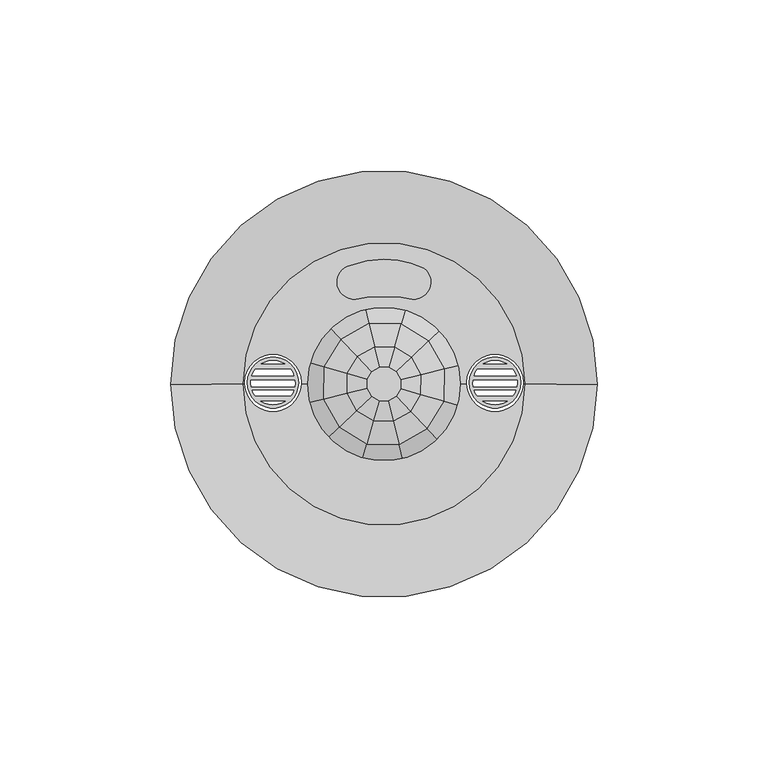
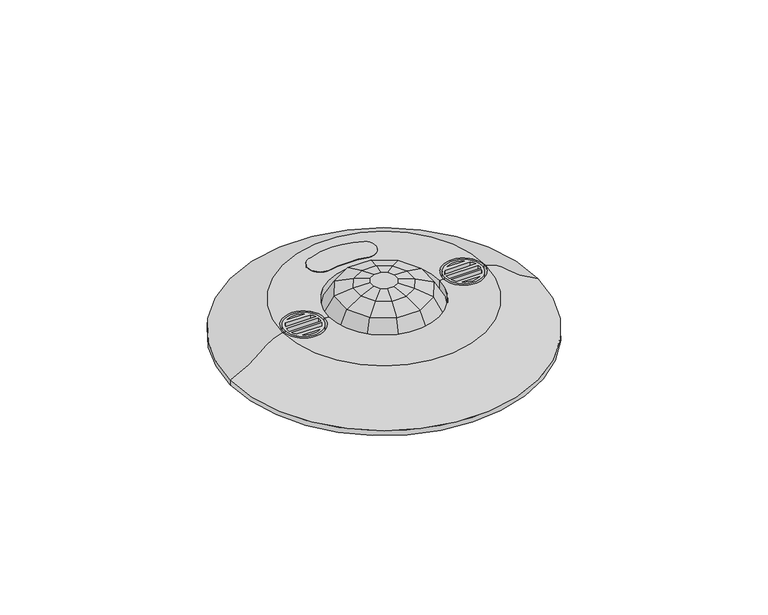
"""IFC4 building model written with IfcOpenShell, lengths in millimetres: switching device geometry, BT_LN_MHU-SensoriAdInfrarossi_PIR_BMSE3003 : BT_LN_MHU-SensoriAdInfrarossi_PIR_BMSE3003."""

from ifc_helpers import new_model, si_unit, point, frame, frame_2d, origin, origin_with_axes, place, context, project, spatial, polyline, circle_curve, trimmed, segment, composite_curve, outline, extrude, faceted_brep, source, transform, mapped, element, save
from ifc_brep_helpers import plane_surface, cylinder_surface, revolved_surface, spline_curve, advanced_brep


def switching_device_5ea9bc78(model_context):
    return source(origin(), model_context, "Body", "SolidModel", [
        extrude(outline(composite_curve([segment(trimmed(circle_curve(frame_2d((32.5289146, 0.3980965)), 7.4969993), [point((40.0259139, 0.3980965))], [point((25.0319153, 0.3980965))], False, "CARTESIAN"), True, "CONTINUOUS"), segment(trimmed(circle_curve(frame_2d((32.5289146, 0.3980965)), 7.4969993), [point((25.0319153, 0.3980965))], [point((40.0259139, 0.3980965))], False, "CARTESIAN"), True, "CONTINUOUS")], self_intersect=False), holes=[composite_curve([segment(trimmed(circle_curve(frame_2d((32.5337998, 0.3660322)), 6.4921141), [point((38.9237363, -0.78125))], [point((38.9812442, 1.1262992))], True, "CARTESIAN"), True, "CONTINUOUS"), segment(polyline([(38.9812442, 1.1262992), (26.0863554, 1.1262992)]), True, "CONTINUOUS"), segment(trimmed(circle_curve(frame_2d((32.5337998, 0.3660322)), 6.4921141), [point((26.0863554, 1.1262992))], [point((26.1438633, -0.78125))], True, "CARTESIAN"), True, "CONTINUOUS"), segment(polyline([(26.1438633, -0.78125), (38.9237363, -0.78125)]), True, "CONTINUOUS")], self_intersect=False), composite_curve([segment(trimmed(circle_curve(frame_2d((32.5337998, 0.3660322)), 6.4921141), [point((35.9748756, 5.8711699))], [point((29.092724, 5.8711699))], True, "CARTESIAN"), True, "CONTINUOUS"), segment(polyline([(29.092724, 5.8711699), (35.9748756, 5.8711699)]), True, "CONTINUOUS")], self_intersect=False), composite_curve([segment(trimmed(circle_curve(frame_2d((32.5337998, 0.3660322)), 6.4921141), [point((27.3721411, 4.3036487))], [point((26.3705368, 2.406065))], True, "CARTESIAN"), True, "CONTINUOUS"), segment(polyline([(26.3705368, 2.406065), (38.6970628, 2.406065)]), True, "CONTINUOUS"), segment(trimmed(circle_curve(frame_2d((32.5337998, 0.3660322)), 6.4921141), [point((38.6970628, 2.406065))], [point((37.6954585, 4.3036487))], True, "CARTESIAN"), True, "CONTINUOUS"), segment(polyline([(37.6954585, 4.3036487), (27.3721411, 4.3036487)]), True, "CONTINUOUS")], self_intersect=False), composite_curve([segment(polyline([(36.0754046, -5.074977), (28.992195, -5.074977)]), True, "CONTINUOUS"), segment(trimmed(circle_curve(frame_2d((32.5337998, 0.3660322)), 6.4921141), [point((28.992195, -5.074977))], [point((36.0754046, -5.074977))], True, "CARTESIAN"), True, "CONTINUOUS")], self_intersect=False), composite_curve([segment(polyline([(27.3238443, -3.5074557), (37.7437553, -3.5074557)]), True, "CONTINUOUS"), segment(trimmed(circle_curve(frame_2d((32.5337998, 0.3660322)), 6.4921141), [point((37.7437553, -3.5074557))], [point((38.665803, -1.766122))], True, "CARTESIAN"), True, "CONTINUOUS"), segment(polyline([(38.665803, -1.766122), (26.4017966, -1.766122)]), True, "CONTINUOUS"), segment(trimmed(circle_curve(frame_2d((32.5337998, 0.3660322)), 6.4921141), [point((26.4017966, -1.766122))], [point((27.3238443, -3.5074557))], True, "CARTESIAN"), True, "CONTINUOUS")], self_intersect=False)]), origin_with_axes(), (0.0, 0.0, 1.0), 15.2618347),
        extrude(outline(composite_curve([segment(trimmed(circle_curve(frame_2d((-32.5289146, 0.3980965)), 7.4969993), [point((-40.0259139, 0.3980965))], [point((-25.0319153, 0.3980965))], False, "CARTESIAN"), True, "CONTINUOUS"), segment(trimmed(circle_curve(frame_2d((-32.5289146, 0.3980965)), 7.4969993), [point((-25.0319153, 0.3980965))], [point((-40.0259139, 0.3980965))], False, "CARTESIAN"), True, "CONTINUOUS")], self_intersect=False), holes=[composite_curve([segment(polyline([(-38.9237363, -0.78125), (-26.1438633, -0.78125)]), True, "CONTINUOUS"), segment(trimmed(circle_curve(frame_2d((-32.5337998, 0.3660322)), 6.4921141), [point((-26.1438633, -0.78125))], [point((-26.0863554, 1.1262992))], True, "CARTESIAN"), True, "CONTINUOUS"), segment(polyline([(-26.0863554, 1.1262992), (-38.9812442, 1.1262992)]), True, "CONTINUOUS"), segment(trimmed(circle_curve(frame_2d((-32.5337998, 0.3660322)), 6.4921141), [point((-38.9812442, 1.1262992))], [point((-38.9237363, -0.78125))], True, "CARTESIAN"), True, "CONTINUOUS")], self_intersect=False), composite_curve([segment(polyline([(-35.9748756, 5.8711699), (-29.092724, 5.8711699)]), True, "CONTINUOUS"), segment(trimmed(circle_curve(frame_2d((-32.5337998, 0.3660322)), 6.4921141), [point((-29.092724, 5.8711699))], [point((-35.9748756, 5.8711699))], True, "CARTESIAN"), True, "CONTINUOUS")], self_intersect=False), composite_curve([segment(polyline([(-27.3721411, 4.3036487), (-37.6954585, 4.3036487)]), True, "CONTINUOUS"), segment(trimmed(circle_curve(frame_2d((-32.5337998, 0.3660322)), 6.4921141), [point((-37.6954585, 4.3036487))], [point((-38.6970628, 2.406065))], True, "CARTESIAN"), True, "CONTINUOUS"), segment(polyline([(-38.6970628, 2.406065), (-26.3705368, 2.406065)]), True, "CONTINUOUS"), segment(trimmed(circle_curve(frame_2d((-32.5337998, 0.3660322)), 6.4921141), [point((-26.3705368, 2.406065))], [point((-27.3721411, 4.3036487))], True, "CARTESIAN"), True, "CONTINUOUS")], self_intersect=False), composite_curve([segment(trimmed(circle_curve(frame_2d((-32.5337998, 0.3660322)), 6.4921141), [point((-36.0754046, -5.074977))], [point((-28.992195, -5.074977))], True, "CARTESIAN"), True, "CONTINUOUS"), segment(polyline([(-28.992195, -5.074977), (-36.0754046, -5.074977)]), True, "CONTINUOUS")], self_intersect=False), composite_curve([segment(trimmed(circle_curve(frame_2d((-32.5337998, 0.3660322)), 6.4921141), [point((-27.3238443, -3.5074557))], [point((-26.4017966, -1.766122))], True, "CARTESIAN"), True, "CONTINUOUS"), segment(polyline([(-26.4017966, -1.766122), (-38.665803, -1.766122)]), True, "CONTINUOUS"), segment(trimmed(circle_curve(frame_2d((-32.5337998, 0.3660322)), 6.4921141), [point((-38.665803, -1.766122))], [point((-37.7437553, -3.5074557))], True, "CARTESIAN"), True, "CONTINUOUS"), segment(polyline([(-37.7437553, -3.5074557), (-27.3238443, -3.5074557)]), True, "CONTINUOUS")], self_intersect=False)]), origin_with_axes(), (0.0, 0.0, 1.0), 15.2618347),
        extrude(outline(composite_curve([segment(trimmed(circle_curve(frame_2d((0.1207655, 9.0083661)), 27.4812206), [point((0.0, 36.4893213))], [point((11.6293885, 33.9637079))], False, "CARTESIAN"), True, "CONTINUOUS"), segment(trimmed(circle_curve(frame_2d((8.7611706, 29.8681828)), 5.0), [point((11.6293885, 33.9637079))], [point((8.3144319, 24.8881803))], False, "CARTESIAN"), True, "CONTINUOUS"), segment(trimmed(circle_curve(frame_2d((2.0898873, 2.2156424)), 23.5114638), [point((8.3144319, 24.8881803))], [point((0.0, 25.634039))], True, "CARTESIAN"), True, "CONTINUOUS"), segment(trimmed(circle_curve(frame_2d((-2.0898873, 2.2156424)), 23.5114638), [point((0.0, 25.634039))], [point((-8.3144319, 24.8881803))], True, "CARTESIAN"), True, "CONTINUOUS"), segment(trimmed(circle_curve(frame_2d((-8.7611706, 29.8681828)), 5.0), [point((-8.3144319, 24.8881803))], [point((-9.6290022, 34.7922937))], False, "CARTESIAN"), True, "CONTINUOUS"), segment(trimmed(circle_curve(frame_2d((-0.1207655, 9.0083661)), 27.4812206), [point((-9.6290022, 34.7922937))], [point((0.0, 36.4893213))], False, "CARTESIAN"), True, "CONTINUOUS")], self_intersect=False)), origin_with_axes(), (0.0, 0.0, 1.0), 15.2618347),
        advanced_brep(
        [(22.5, 0.0, 15.2618347), (-22.5, 0.0, 15.2618347), (-22.5, 0.0, 0.0), (22.5, 0.0, 0.0), (62.5, 0.0, 2.0722277), (-62.5, 0.0, 2.0722277), (-41.3922164, 0.0, 15.2618347), (41.3922164, 0.0, 15.2618347), (62.5, 0.0, 0.0), (-62.5, 0.0, 0.0), (-24.0977716, 0.0, 0.0), (-24.0919696, 0.3125, 0.0), (-40.9290289, 0.3125, 0.0), (-40.9232269, 0.0, 0.0), (40.9232269, 0.0, 0.0), (40.9290289, 0.3125, 0.0), (24.0919696, 0.3125, 0.0), (24.0977716, 0.0, 0.0), (-8.3144319, 24.8881803, 0.0), (0.0, 25.634039, 0.0), (8.3144319, 24.8881803, 0.0), (11.6293885, 33.9637079, 0.0), (0.0, 36.4893213, 0.0), (-9.6290022, 34.7922937, 0.0), (-40.9290289, 0.3125, 15.2618347), (-40.9232269, 0.0, 15.2618347), (-24.0977716, 0.0, 15.2618347), (-24.0919696, 0.3125, 15.2618347), (24.0919696, 0.3125, 15.2618347), (24.0977716, 0.0, 15.2618347), (40.9232269, 0.0, 15.2618347), (40.9290289, 0.3125, 15.2618347), (0.0, 25.634039, 15.2618347), (-8.3144319, 24.8881803, 15.2618347), (-9.6290022, 34.7922937, 15.2618347), (0.0, 36.4893213, 15.2618347), (11.6293885, 33.9637079, 15.2618347), (8.3144319, 24.8881803, 15.2618347)],
        [
            (0, 1, circle_curve(frame((0.0, 0.0, 15.2618347), z_axis=(0.0, 0.0, 1.0), x_axis=(-1.0, 0.0, 0.0)), 22.5)),
            (1, 2),
            (2, 3, circle_curve(frame((0.0, 0.0, 0.0), z_axis=(0.0, 0.0, -1.0), x_axis=(-1.0, 0.0, 0.0)), 22.5)),
            (3, 0),
            (1, 0, circle_curve(frame((0.0, 0.0, 15.2618347), z_axis=(0.0, 0.0, 1.0), x_axis=(-1.0, 0.0, 0.0)), 22.5)),
            (3, 2, circle_curve(frame((0.0, 0.0, 0.0), z_axis=(0.0, 0.0, -1.0), x_axis=(-1.0, 0.0, 0.0)), 22.5)),
            (4, 5, circle_curve(frame((0.0, 0.0, 2.0722277), z_axis=(0.0, 0.0, 1.0), x_axis=(-1.0, 0.0, 0.0)), 62.5)),
            (5, 6, spline_curve(3, [(-62.5, 0.0, 2.0722277), (-56.363581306, 0.0, 4.765481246), (-53.304367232, 0.0, 7.396496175), (-48.184112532, 0.0, 12.057382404), (-46.057106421, 0.0, 14.120297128), (-41.3922164, 0.0, 15.2618347)], [4, 2, 4], [0.0, 0.03817155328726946, 0.07282897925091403])),
            (6, 7, circle_curve(frame((0.0, 0.0, 15.2618347), z_axis=(0.0, 0.0, -1.0), x_axis=(-1.0, 0.0, 0.0)), 41.3922164)),
            (7, 4, spline_curve(3, [(41.3922164, 0.0, 15.2618347), (46.057106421, 0.0, 14.120297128), (48.184112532, 0.0, 12.057382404), (53.304367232, 0.0, 7.396496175), (56.363581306, 0.0, 4.765481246), (62.5, 0.0, 2.0722277)], [4, 2, 4], [0.0, 0.034657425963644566, 0.07282897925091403])),
            (5, 4, circle_curve(frame((0.0, 0.0, 2.0722277), z_axis=(0.0, 0.0, 1.0), x_axis=(-1.0, 0.0, 0.0)), 62.5)),
            (7, 6, circle_curve(frame((0.0, 0.0, 15.2618347), z_axis=(0.0, 0.0, -1.0), x_axis=(-1.0, 0.0, 0.0)), 41.3922164)),
            (4, 8),
            (8, 9, circle_curve(frame((0.0, 0.0, 0.0), z_axis=(0.0, 0.0, 1.0), x_axis=(-1.0, 0.0, 0.0)), 62.5)),
            (9, 5),
            (9, 8, circle_curve(frame((0.0, 0.0, 0.0), z_axis=(0.0, 0.0, 1.0), x_axis=(-1.0, 0.0, 0.0)), 62.5)),
            (2, 10),
            (10, 11, circle_curve(frame((-32.5104992, 0.3125, 0.0), z_axis=(0.0, 0.0, 1.0), x_axis=(1.0, 0.0, 0.0)), 8.4185297)),
            (11, 12, circle_curve(frame((-32.5104992, 0.3125, 0.0), z_axis=(0.0, 0.0, 1.0), x_axis=(1.0, 0.0, 0.0)), 8.4185297)),
            (12, 13, circle_curve(frame((-32.5104992, 0.3125, 0.0), z_axis=(0.0, 0.0, 1.0), x_axis=(1.0, 0.0, 0.0)), 8.4185297)),
            (13, 9),
            (8, 14),
            (14, 15, circle_curve(frame((32.5104992, 0.3125, 0.0), z_axis=(0.0, 0.0, 1.0), x_axis=(-1.0, 0.0, 0.0)), 8.4185297)),
            (15, 16, circle_curve(frame((32.5104992, 0.3125, 0.0), z_axis=(0.0, 0.0, 1.0), x_axis=(-1.0, 0.0, 0.0)), 8.4185297)),
            (16, 17, circle_curve(frame((32.5104992, 0.3125, 0.0), z_axis=(0.0, 0.0, 1.0), x_axis=(-1.0, 0.0, 0.0)), 8.4185297)),
            (17, 3),
            (18, 19, circle_curve(frame((-2.0898873, 2.2156424, 0.0), z_axis=(0.0, 0.0, -1.0), x_axis=(1.0, 0.0, 0.0)), 23.5114638)),
            (19, 20, circle_curve(frame((2.0898873, 2.2156424, 0.0), z_axis=(0.0, 0.0, -1.0), x_axis=(1.0, 0.0, 0.0)), 23.5114638)),
            (20, 21, circle_curve(frame((8.7611706, 29.8681828, 0.0), z_axis=(0.0, 0.0, 1.0), x_axis=(1.0, 0.0, 0.0)), 5.0)),
            (21, 22, circle_curve(frame((0.1207655, 9.0083661, 0.0), z_axis=(0.0, 0.0, 1.0), x_axis=(1.0, 0.0, 0.0)), 27.4812206)),
            (22, 23, circle_curve(frame((-0.1207655, 9.0083661, 0.0), z_axis=(0.0, 0.0, 1.0), x_axis=(1.0, 0.0, 0.0)), 27.4812206)),
            (23, 18, circle_curve(frame((-8.7611706, 29.8681828, 0.0), z_axis=(0.0, 0.0, 1.0), x_axis=(1.0, 0.0, 0.0)), 5.0)),
            (17, 14, circle_curve(frame((32.5104992, 0.3125, 0.0), z_axis=(0.0, 0.0, 1.0), x_axis=(-1.0, 0.0, 0.0)), 8.4185297)),
            (13, 10, circle_curve(frame((-32.5104992, 0.3125, 0.0), z_axis=(0.0, 0.0, 1.0), x_axis=(1.0, 0.0, 0.0)), 8.4185297)),
            (12, 24),
            (24, 25, circle_curve(frame((-32.5104992, 0.3125, 15.2618347), z_axis=(0.0, 0.0, 1.0), x_axis=(1.0, 0.0, 0.0)), 8.4185297)),
            (25, 26, circle_curve(frame((-32.5104992, 0.3125, 15.2618347), z_axis=(0.0, 0.0, 1.0), x_axis=(1.0, 0.0, 0.0)), 8.4185297)),
            (26, 27, circle_curve(frame((-32.5104992, 0.3125, 15.2618347), z_axis=(0.0, 0.0, 1.0), x_axis=(1.0, 0.0, 0.0)), 8.4185297)),
            (27, 11),
            (27, 24, circle_curve(frame((-32.5104992, 0.3125, 15.2618347), z_axis=(0.0, 0.0, 1.0), x_axis=(1.0, 0.0, 0.0)), 8.4185297)),
            (16, 28),
            (28, 29, circle_curve(frame((32.5104992, 0.3125, 15.2618347), z_axis=(0.0, 0.0, 1.0), x_axis=(-1.0, 0.0, 0.0)), 8.4185297)),
            (29, 30, circle_curve(frame((32.5104992, 0.3125, 15.2618347), z_axis=(0.0, 0.0, 1.0), x_axis=(-1.0, 0.0, 0.0)), 8.4185297)),
            (30, 31, circle_curve(frame((32.5104992, 0.3125, 15.2618347), z_axis=(0.0, 0.0, 1.0), x_axis=(-1.0, 0.0, 0.0)), 8.4185297)),
            (31, 15),
            (31, 28, circle_curve(frame((32.5104992, 0.3125, 15.2618347), z_axis=(0.0, 0.0, 1.0), x_axis=(-1.0, 0.0, 0.0)), 8.4185297)),
            (0, 29),
            (30, 7),
            (6, 25),
            (26, 1),
            (32, 33, circle_curve(frame((-2.0898873, 2.2156424, 15.2618347), z_axis=(0.0, 0.0, 1.0), x_axis=(1.0, 0.0, 0.0)), 23.5114638)),
            (33, 34, circle_curve(frame((-8.7611706, 29.8681828, 15.2618347), z_axis=(0.0, 0.0, -1.0), x_axis=(1.0, 0.0, 0.0)), 5.0)),
            (34, 35, circle_curve(frame((-0.1207655, 9.0083661, 15.2618347), z_axis=(0.0, 0.0, -1.0), x_axis=(1.0, 0.0, 0.0)), 27.4812206)),
            (35, 36, circle_curve(frame((0.1207655, 9.0083661, 15.2618347), z_axis=(0.0, 0.0, -1.0), x_axis=(1.0, 0.0, 0.0)), 27.4812206)),
            (36, 37, circle_curve(frame((8.7611706, 29.8681828, 15.2618347), z_axis=(0.0, 0.0, -1.0), x_axis=(1.0, 0.0, 0.0)), 5.0)),
            (37, 32, circle_curve(frame((2.0898873, 2.2156424, 15.2618347), z_axis=(0.0, 0.0, 1.0), x_axis=(1.0, 0.0, 0.0)), 23.5114638)),
            (18, 33),
            (32, 19),
            (37, 20),
            (36, 21),
            (35, 22),
            (34, 23),
        ],
        [
            revolved_surface(polyline([(-22.5, 0.0, 0.0), (-22.5, 0.0, 15.261834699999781)]), (0.0, 0.0, 2214.3150031), (0.0, 0.0, -1.0)),
            revolved_surface(spline_curve(3, [(-41.3922164, 0.0, 15.2618347), (-46.057106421, 0.0, 14.120297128), (-48.184112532, 0.0, 12.057382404), (-53.304367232, 0.0, 7.396496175), (-56.363581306, 0.0, 4.765481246), (-62.5, 0.0, 2.0722277)], [4, 2, 4], [0.0, 0.034657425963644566, 0.07282897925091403]), (0.0, 0.0, 2214.3150031), (0.0, 0.0, -1.0)),
            cylinder_surface(frame((0.0, 0.0, 2214.3150031), z_axis=(0.0, 0.0, -1.0), x_axis=(-1.0, 0.0, 0.0)), 62.5),
            plane_surface(frame((0.0, 0.0, 0.0), z_axis=(0.0, 0.0, -1.0), x_axis=(-1.0, 0.0, 0.0))),
            revolved_surface(polyline([(-24.091969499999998, 0.3125, 15.2618347), (-24.091969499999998, 0.3125, 0.0)]), (-32.5104992, 0.3125, 0.0), (0.0, 0.0, 1.0)),
            revolved_surface(polyline([(24.091969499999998, 0.3125, 15.2618347), (24.091969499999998, 0.3125, 0.0)]), (32.5104992, 0.3125, 0.0), (0.0, 0.0, 1.0)),
            plane_surface(frame((0.0, 0.0, 15.2618347), z_axis=(0.0, 0.0, 1.0), x_axis=(-1.0, 0.0, 0.0))),
            cylinder_surface(frame((-2.0898873, 2.2156424, 0.0), z_axis=(0.0, 0.0, -1.0), x_axis=(1.0, 0.0, 0.0)), 23.5114638),
            cylinder_surface(frame((2.0898873, 2.2156424, 0.0), z_axis=(0.0, 0.0, -1.0), x_axis=(1.0, 0.0, 0.0)), 23.5114638),
            revolved_surface(polyline([(13.7611706, 29.8681828, 15.2618347), (13.7611706, 29.8681828, 0.0)]), (8.7611706, 29.8681828, 0.0), (0.0, 0.0, 1.0)),
            revolved_surface(polyline([(27.6019861, 9.0083661, 15.2618347), (27.6019861, 9.0083661, 0.0)]), (0.1207655, 9.0083661, 0.0), (0.0, 0.0, 1.0)),
            revolved_surface(polyline([(27.3604551, 9.0083661, 15.2618347), (27.3604551, 9.0083661, 0.0)]), (-0.1207655, 9.0083661, 0.0), (0.0, 0.0, 1.0)),
            revolved_surface(polyline([(-3.7611706, 29.8681828, 15.2618347), (-3.7611706, 29.8681828, 0.0)]), (-8.7611706, 29.8681828, 0.0), (0.0, 0.0, 1.0)),
        ],
        [
            (0, [[1, 2, 3, 4]]),
            (0, [[-2, 5, -4, 6]]),
            (1, [[7, 8, 9, 10]]),
            (1, [[-8, 11, -10, 12]]),
            (2, [[-7, 13, 14, 15]]),
            (2, [[-11, -15, 16, -13]]),
            (3, [[-3, 17, 18, 19, 20, 21, -14, 22, 23, 24, 25, 26], [27, 28, 29, 30, 31, 32]]),
            (3, [[-6, -26, 33, -22, -16, -21, 34, -17]]),
            (4, [[35, 36, 37, 38, 39, -18, -34, -20]]),
            (4, [[-35, -19, -39, 40]]),
            (5, [[41, 42, 43, 44, 45, -23, -33, -25]]),
            (5, [[-41, -24, -45, 46]]),
            (6, [[-1, 47, -42, -46, -44, 48, -9, 49, -36, -40, -38, 50], [51, 52, 53, 54, 55, 56]]),
            (6, [[-5, -50, -37, -49, -12, -48, -43, -47]]),
            (7, [[57, -51, 58, -27]]),
            (8, [[-58, -56, 59, -28]]),
            (9, [[-59, -55, 60, -29]]),
            (10, [[-60, -54, 61, -30]]),
            (11, [[-61, -53, 62, -31]]),
            (12, [[-57, -32, -62, -52]]),
        ],
    ),
        faceted_brep([(-16.3190493, 16.8988702, 0.0), (-5.6832761, 22.7943756, 0.0), (6.4753263, 22.5821464, 0.0), (16.8988702, 16.3190493, 0.0), (22.7943756, 5.6832761, 0.0), (22.5821464, -6.4753263, 0.0), (16.3190493, -16.8988702, 0.0), (5.6832761, -22.7943756, 0.0), (-6.4753263, -22.5821464, 0.0), (-16.8988702, -16.3190493, 0.0), (-22.7943756, -5.6832761, 0.0), (-22.5821464, 6.4753263, 0.0), (-22.5821464, 6.4753263, 10.0240736), (-16.3190493, 16.8988702, 10.0240736), (-22.7943756, -5.6832761, 10.0240736), (-16.8988702, -16.3190493, 10.0240736), (-6.4753263, -22.5821464, 10.0240736), (5.6832761, -22.7943756, 10.0240736), (16.3190493, -16.8988702, 10.0240736), (22.5821464, -6.4753263, 10.0240736), (22.7943756, 5.6832761, 10.0240736), (16.8988702, 16.3190493, 10.0240736), (6.4753263, 22.5821464, 10.0240736), (-5.6832761, 22.7943756, 10.0240736), (-17.6062897, 5.0485223, 19.3901755), (-12.723233, 13.1752934, 19.3901755), (-4.4309963, 17.7717553, 19.3901755), (5.0485223, 17.6062897, 19.3901755), (13.1752934, 12.723233, 19.3901755), (17.7717553, 4.4309963, 19.3901755), (17.6062897, -5.0485223, 19.3901755), (12.723233, -13.1752934, 19.3901755), (4.4309963, -17.7717553, 19.3901755), (-5.0485223, -17.6062897, 19.3901755), (-13.1752934, -12.723233, 19.3901755), (-17.7717553, -4.4309963, 19.3901755), (-7.8329228, 8.111229, 21.7579917), (-2.7278956, 10.9409917, 21.7579917), (-10.8391246, 3.108069, 21.7579917), (-10.9409917, -2.7278956, 21.7579917), (-8.111229, -7.8329228, 21.7579917), (-3.108069, -10.8391246, 21.7579917), (2.7278956, -10.9409917, 21.7579917), (7.8329228, -8.111229, 21.7579917), (10.8391246, -3.108069, 21.7579917), (10.9409917, 2.7278956, 21.7579917), (8.111229, 7.8329228, 21.7579917), (3.108069, 10.8391246, 21.7579917), (1.3959042, 4.8680966, 23.0562387), (-1.2251598, 4.9138474, 23.0562387), (-3.5179432, 3.6429368, 23.0562387), (-4.8680966, 1.3959042, 23.0562387), (-4.9138474, -1.2251598, 23.0562387), (-3.6429368, -3.5179432, 23.0562387), (-1.3959042, -4.8680966, 23.0562387), (1.2251598, -4.9138474, 23.0562387), (3.5179432, -3.6429368, 23.0562387), (4.8680966, -1.3959042, 23.0562387), (4.9138474, 1.2251598, 23.0562387), (3.6429368, 3.5179432, 23.0562387)], [[[0, 1, 2, 3, 4, 5, 6, 7, 8, 9, 10, 11]], [[0, 11, 12, 13]], [[11, 10, 14, 12]], [[10, 9, 15, 14]], [[9, 8, 16, 15]], [[8, 7, 17, 16]], [[7, 6, 18, 17]], [[6, 5, 19, 18]], [[5, 4, 20, 19]], [[4, 3, 21, 20]], [[3, 2, 22, 21]], [[2, 1, 23, 22]], [[1, 0, 13, 23]], [[12, 24, 25, 13]], [[13, 25, 26, 23]], [[23, 26, 27, 22]], [[22, 27, 28, 21]], [[21, 28, 29, 20]], [[20, 29, 30, 19]], [[19, 30, 31, 18]], [[18, 31, 32, 17]], [[17, 32, 33, 16]], [[16, 33, 34, 15]], [[15, 34, 35, 14]], [[24, 12, 14, 35]], [[25, 36, 37, 26]], [[36, 25, 24, 38]], [[38, 24, 35, 39]], [[39, 35, 34, 40]], [[40, 34, 33, 41]], [[41, 33, 32, 42]], [[42, 32, 31, 43]], [[43, 31, 30, 44]], [[44, 30, 29, 45]], [[45, 29, 28, 46]], [[46, 28, 27, 47]], [[26, 37, 47, 27]], [[48, 49, 50, 51, 52, 53, 54, 55, 56, 57, 58, 59]], [[49, 48, 47, 37]], [[50, 49, 37, 36]], [[51, 50, 36, 38]], [[52, 51, 38, 39]], [[53, 52, 39, 40]], [[54, 53, 40, 41]], [[55, 54, 41, 42]], [[56, 55, 42, 43]], [[57, 56, 43, 44]], [[58, 57, 44, 45]], [[59, 58, 45, 46]], [[48, 59, 46, 47]]]),
    ])


if __name__ == "__main__":
    model = new_model("IFC4")
    model_context = context("Model", 3, world=origin())
    ifc_project = project(units=[si_unit("LENGTHUNIT", "METRE", prefix="MILLI")], contexts=[model_context])
    site = spatial("IfcSite", under=ifc_project)
    building = spatial("IfcBuilding", under=site)
    placement = place(None, origin())
    switching_device_shape = switching_device_5ea9bc78(model_context)
    element("IfcSwitchingDevice", 1, ObjectType="BT_LN_MHU-SensoriAdInfrarossi_PIR_BMSE3003 : BT_LN_MHU-SensoriAdInfrarossi_PIR_BMSE3003", at=placement, inside=building, context=model_context, shape_type="MappedRepresentation", body=[
        mapped(switching_device_shape, transform((0.0, 0.0, 0.0), x_axis=(1.0, 0.0, 0.0), y_axis=(0.0, 1.0, 0.0), z_axis=(0.0, 0.0, 1.0))),
    ])
    save(model, "model.ifc")
